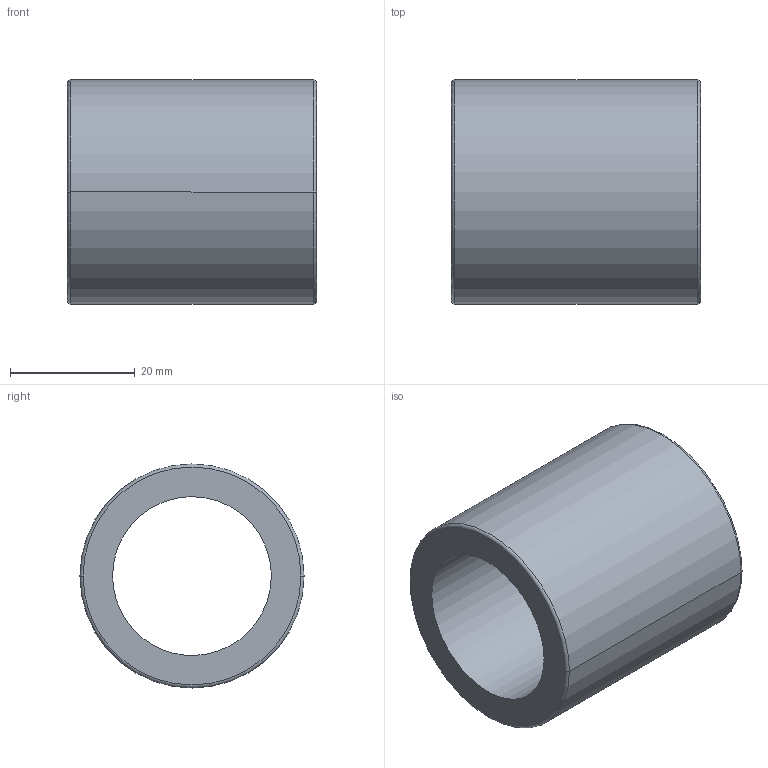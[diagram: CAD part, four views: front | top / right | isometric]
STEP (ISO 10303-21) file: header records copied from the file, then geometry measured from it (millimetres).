
FILE_DESCRIPTION(('CATIA V5 STEP Exchange'),'2;1');
FILE_NAME('C:\Users\aa\Documents\이댈\TM\STM\STM25.stp','2020-03-24T09:38:21+00:00',('none'),('none'),'CATIA Version 5 Release 20 SP 7 (IN-10)','CATIA V5 STEP AP203','none');
FILE_SCHEMA(('CONFIG_CONTROL_DESIGN'));
Length unit declared in the file: millimetre
Products named in the file (1): STM25
Bounding box: 40 x 36 x 36 mm (x, y, z)
Volume: 20274.8 mm3; surface area: 8693.9 mm2
Topology: 1 solids, 1 shells, 10 faces, 20 edges, 12 vertices
Faces by surface type: cylinder 4, torus 4, plane 2
Entity records: 322 total; most frequent: CARTESIAN_POINT 71, ORIENTED_EDGE 40, DIRECTION 38, AXIS2_PLACEMENT_3D 25, EDGE_CURVE 20, CIRCLE 14, EDGE_LOOP 12, VERTEX_POINT 12
